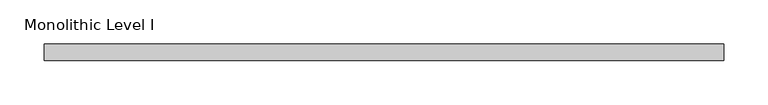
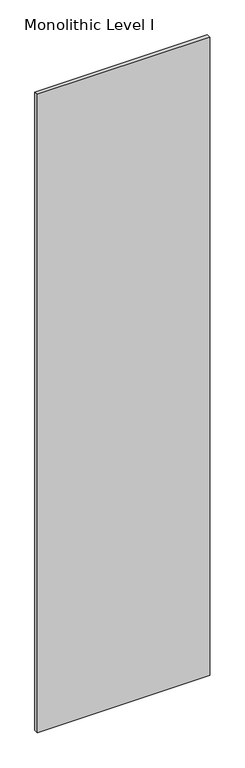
"""IFC4 building model written with IfcOpenShell, lengths in millimetres: proxy geometry, Panel-Fascia-Teknion-Altos-Standard : Monolithic Level I."""

from ifc_helpers import new_model, si_unit, frame, origin, place, context, project, spatial, polyline, outline, extrude, source, transform, mapped, element, save


def monolithic_level_i_9a1f2e57(model_context):
    return source(origin(), model_context, "Body", "SweptSolid", [
        extrude(outline(polyline([(385.4152344, 9.525), (385.4152344, -9.525), (-385.4152344, -9.525), (-385.4152344, 9.525), (385.4152344, 9.525)])), frame((0.0, 0.0, 3.175), z_axis=(0.0, 0.0, 1.0), x_axis=(1.0, 0.0, 0.0)), (0.0, 0.0, 1.0), 3016.25),
    ])


if __name__ == "__main__":
    model = new_model("IFC4")
    model_context = context("Model", 3, world=origin())
    ifc_project = project(units=[si_unit("LENGTHUNIT", "METRE", prefix="MILLI")], contexts=[model_context])
    site = spatial("IfcSite", under=ifc_project)
    building = spatial("IfcBuilding", under=site)
    placement = place(None, origin())
    monolithic_level_i_shape = monolithic_level_i_9a1f2e57(model_context)
    element("IfcBuildingElementProxy", 1, Name="Panel-Fascia-Teknion-Altos-Standard : Monolithic Level I", ObjectType="Panel-Fascia-Teknion-Altos-Standard : Monolithic Level I", at=placement, inside=building, context=model_context, shape_type="MappedRepresentation", body=[
        mapped(monolithic_level_i_shape, transform((0.0, 0.0, 0.0), x_axis=(1.0, 0.0, 0.0), y_axis=(0.0, 1.0, 0.0), z_axis=(0.0, 0.0, 1.0))),
    ])
    save(model, "model.ifc")
